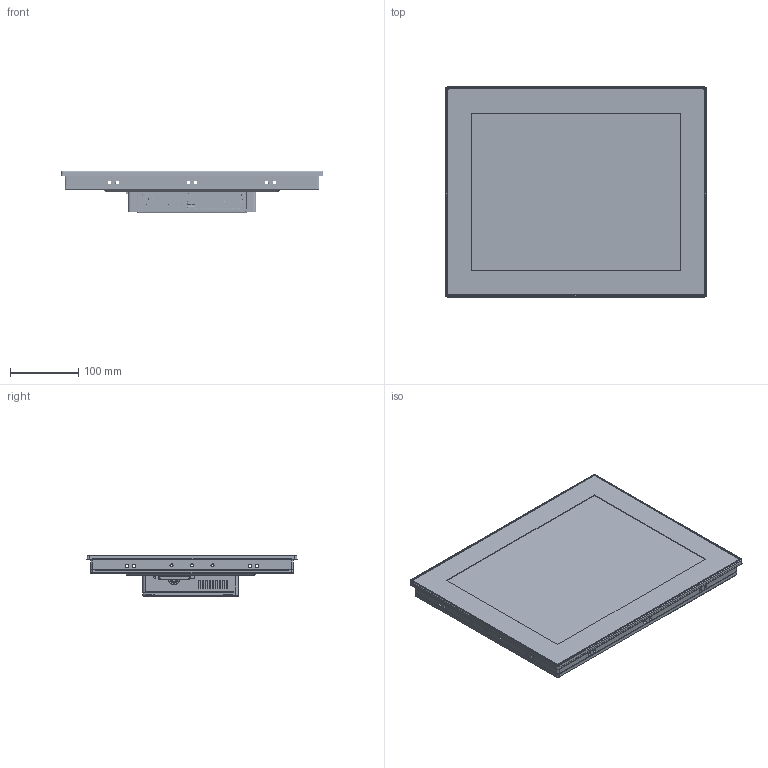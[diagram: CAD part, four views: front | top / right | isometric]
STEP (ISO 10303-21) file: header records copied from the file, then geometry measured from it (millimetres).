
FILE_DESCRIPTION((''),'2;1');
FILE_NAME('CU_TPC-1551T','2016-02-19T',('jbuhisan'),(''),'PRO/ENGINEER BY PARAMETRIC TECHNOLOGY CORPORATION, 2015280','PRO/ENGINEER BY PARAMETRIC TECHNOLOGY CORPORATION, 2015280','');
FILE_SCHEMA(('CONFIG_CONTROL_DESIGN'));
Products named in the file (1): CU_TPC-1551T
Bounding box: 383.2 x 307.3 x 61.3 mm (x, y, z)
Volume: 592871.7 mm3; surface area: 750464.6 mm2
Topology: 4 solids, 4 shells, 4891 faces, 13227 edges, 8423 vertices
Faces by surface type: plane 2315, cylinder 1930, torus 205, cone 154, bspline 140, extrusion 116, sphere 29, revolution 2
Entity records: 174277 total; most frequent: CARTESIAN_POINT 47946, ORIENTED_EDGE 26426, DIRECTION 26045, EDGE_CURVE 13213, AXIS2_PLACEMENT_3D 8877, VERTEX_POINT 8422, VECTOR 8289, LINE 8173
